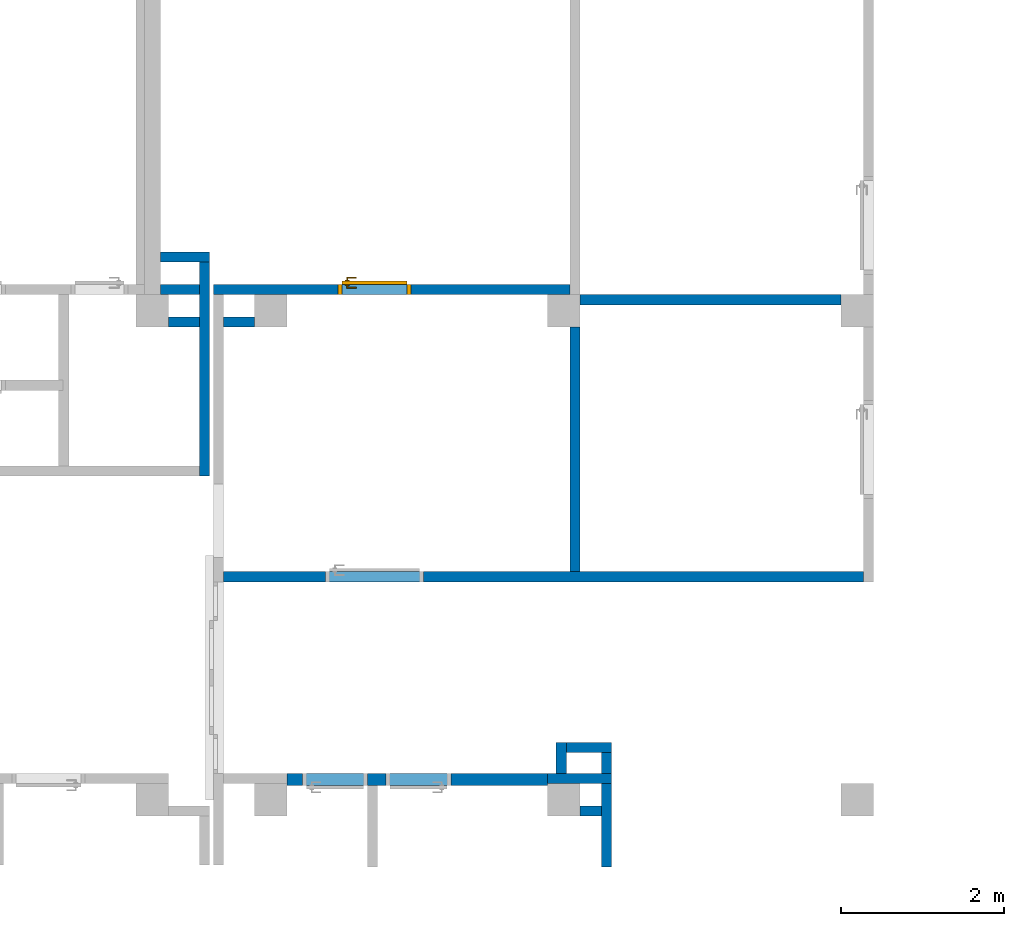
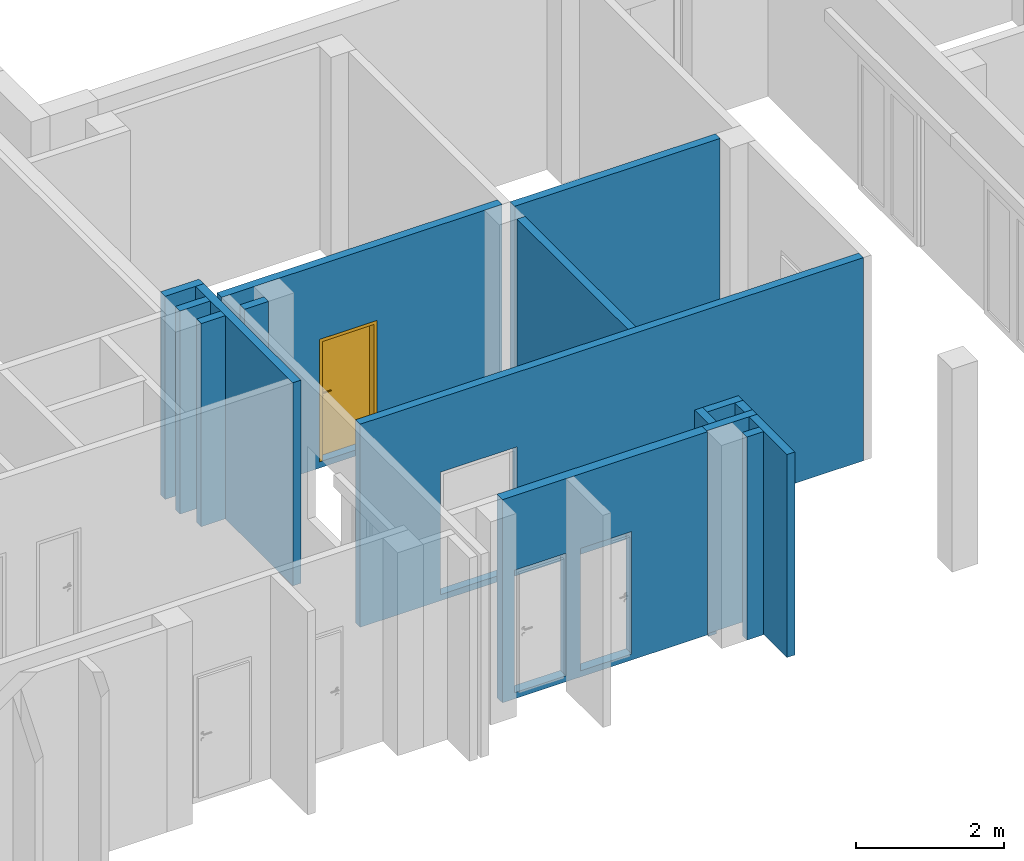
# One storey, part 18 of 37: 16 walls, 1 door, 4 openings.
"""IFC4 building model written with IfcOpenShell, lengths in metres."""

from ifc_helpers import new_model, entity, si_unit, converted_unit, derived_unit, frame, frame_2d, origin, origin_with_axes, place, context, subcontext, project, spatial, polyline, rectangle, outline, extrude, closed_shell, open_shell, surface_model, source, transform, mapped, material, layer, layer_set, layer_usage, type_object, element, fill, save


model = new_model("IFC4")

# Units and contexts
model_context = context("Model", 3, precision=1e-05, world=origin())
body_context = subcontext(model_context, "Body", "Model", "MODEL_VIEW")
ifc_project = project(units=[si_unit("LENGTHUNIT", "METRE"), si_unit("AREAUNIT", "SQUARE_METRE"), si_unit("VOLUMEUNIT", "CUBIC_METRE"), si_unit("MASSUNIT", "GRAM", prefix="KILO"), converted_unit("PLANEANGLEUNIT", "DEGREE", entity("IfcPlaneAngleMeasure", 0.0174532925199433), si_unit("PLANEANGLEUNIT", "RADIAN"), dimensions=[0, 0, 0, 0, 0, 0, 0]), derived_unit("THERMALTRANSMITTANCEUNIT", [(si_unit("POWERUNIT", "WATT"), 1), (si_unit("THERMODYNAMICTEMPERATUREUNIT", "KELVIN"), -1), (si_unit("LENGTHUNIT", "METRE"), -2)]), derived_unit("VOLUMETRICFLOWRATEUNIT", [(si_unit("LENGTHUNIT", "METRE"), 3), (converted_unit("TIMEUNIT", "hour", entity("IfcTimeMeasure", 3600.0), si_unit("TIMEUNIT", "SECOND"), dimensions=[0, 0, 1, 0, 0, 0, 0]), -1), (si_unit("LENGTHUNIT", "METRE"), -1)])], contexts=[model_context])

# Site, building, storey
site_placement = place(None, origin())
site = spatial("IfcSite", under=ifc_project, at=site_placement, Name="3. ASŘ", CompositionType="ELEMENT")
building_placement = place(site_placement, origin())
building = spatial("IfcBuilding", under=site, at=building_placement, Name="Pavilon B", CompositionType="ELEMENT")
storey_placement = place(building_placement, origin())
storey = spatial("IfcBuildingStorey", under=building, at=storey_placement, Name="Půdorys 1.NP", CompositionType="ELEMENT", Elevation=0.0)

# Walls
ifc_material_1 = material(Name="YTONG 125")
ifc_layer_1 = layer(ifc_material_1, 0.125)
ifc_layer_set_1 = layer_set([ifc_layer_1])
ifc_layer_usage_1 = layer_usage(ifc_layer_set_1, "AXIS2", "POSITIVE", 0.0)
wall_1_placement = place(storey_placement, frame((40.25, -21.4, -0.1), z_axis=(0.0, 0.0, 1.0), x_axis=(-1.0, 0.0, 0.0)))
element("IfcWall", 1, at=wall_1_placement, inside=storey, material=ifc_layer_usage_1, Name="YTONG 125", context=body_context, shape_type="SweptSolid", body=[
    extrude(rectangle(XDim=3.2, YDim=0.125, at=frame_2d((1.6, 0.0625), x_axis=(1.0, 0.0))), origin_with_axes(), (0.0, 0.0, 1.0), 3.35),
])
ifc_material_2 = material(Name="ZDIVO Z CDm")
ifc_layer_2 = layer(ifc_material_2, 0.125)
ifc_layer_set_2 = layer_set([ifc_layer_2])
ifc_layer_usage_2 = layer_usage(ifc_layer_set_2, "AXIS2", "POSITIVE", 0.0)
wall_2_placement = place(storey_placement, frame((32.5, -23.625, -0.1), z_axis=(0.0, 0.0, 1.0), x_axis=(0.0, 1.0, 0.0)))
element("IfcWall", 2, at=wall_2_placement, inside=storey, material=ifc_layer_usage_2, Name="ZDIVO Z CDm", context=body_context, shape_type="SweptSolid", body=[
    extrude(rectangle(XDim=2.625, YDim=0.125, at=frame_2d((1.3125, 0.0625), x_axis=(1.0, 0.0))), origin_with_axes(), (0.0, 0.0, 1.0), 3.35),
])

# Wall, opening, door
ifc_material_3 = material(Name="ZDIVO Z CDm")
ifc_layer_3 = layer(ifc_material_3, 0.125)
ifc_layer_set_3 = layer_set([ifc_layer_3])
ifc_layer_usage_3 = layer_usage(ifc_layer_set_3, "AXIS2", "POSITIVE", 0.0)
wall_3_placement = place(storey_placement, frame((32.55, -21.4, -0.1)))
wall_3 = element("IfcWall", 3, at=wall_3_placement, inside=storey, material=ifc_layer_usage_3, Name="ZDIVO Z CDm", context=body_context, shape_type="SweptSolid", body=[
    extrude(rectangle(XDim=4.375, YDim=0.125, at=frame_2d((2.1875, 0.0625), x_axis=(1.0, 0.0))), origin_with_axes(), (0.0, 0.0, 1.0), 3.35),
])
opening_1_placement = place(wall_3_placement, frame((2.425, 0.125, 0.1), z_axis=(0.0, -1.0, 0.0), x_axis=(0.0, 0.0, 1.0)))
opening_1 = element("IfcOpeningElement", 4, at=opening_1_placement, cuts=wall_3, Name="Dveřní otvor", ObjectType="Opening", context=body_context, shape_type="SweptSolid", body=[
    extrude(outline(polyline([(0.0, 0.9), (2.02, 0.9), (2.02, 0.0), (0.0, 0.0), (0.0, 0.9)])), origin_with_axes(), (0.0, 0.0, 1.0), 0.125),
])
door_type = type_object("IfcDoorType", Name="D101", OperationType="NOTDEFINED", ParameterTakesPrecedence=False, PredefinedType="DOOR")
shared_shape = source(origin_with_axes(), body_context, "Body", "SurfaceModel", [
    surface_model("IfcShellBasedSurfaceModel", [(0.0, 0.125, 2.02), (0.0, 0.125, -7.65404249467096e-18), (0.05, 0.125, -7.65404249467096e-18), (0.05, 0.125, 2.02), (0.0, 0.0, 7.65404249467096e-18), (0.0, 2.41584530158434e-16, 2.02), (0.05, 2.41584530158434e-16, 2.02), (0.05, 0.0, 7.65404249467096e-18)], [closed_shell([[[0, 1, 2, 3]], [[4, 5, 6, 7]], [[1, 0, 5, 4]], [[2, 1, 4, 7]], [[3, 2, 7, 6]], [[0, 3, 6, 5]]], orient=[[False], [False], [False], [False], [False], [False]])]),
    surface_model("IfcShellBasedSurfaceModel", [(0.85, 0.125, 2.02), (0.85, 0.125, -7.65404249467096e-18), (0.9, 0.125, -7.65404249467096e-18), (0.9, 0.125, 2.02), (0.85, 0.0, 7.65404249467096e-18), (0.85, 2.41584530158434e-16, 2.02), (0.9, 2.41584530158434e-16, 2.02), (0.9, 0.0, 7.65404249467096e-18)], [closed_shell([[[0, 1, 2, 3]], [[4, 5, 6, 7]], [[1, 0, 5, 4]], [[2, 1, 4, 7]], [[3, 2, 7, 6]], [[0, 3, 6, 5]]], orient=[[False], [False], [False], [False], [False], [False]])]),
    surface_model("IfcShellBasedSurfaceModel", [(0.05, 0.125, 2.02), (0.05, 0.125, 1.97), (0.85, 0.125, 1.97), (0.85, 0.125, 2.02), (0.05, 2.41584530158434e-16, 1.97), (0.05, 2.41584530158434e-16, 2.02), (0.85, 2.41584530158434e-16, 2.02), (0.85, 2.41584530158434e-16, 1.97)], [closed_shell([[[0, 1, 2, 3]], [[4, 5, 6, 7]], [[1, 0, 5, 4]], [[2, 1, 4, 7]], [[3, 2, 7, 6]], [[0, 3, 6, 5]]], orient=[[False], [False], [False], [False], [False], [False]])]),
    surface_model("IfcShellBasedSurfaceModel", [(0.05, 0.165, 1.97), (0.05, 0.165, -1.25526296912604e-17), (0.85, 0.165, -1.25526296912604e-17), (0.85, 0.165, 1.97), (0.05, 0.125, -7.65404249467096e-18), (0.05, 0.125, 1.97), (0.85, 0.125, 1.97), (0.85, 0.125, -7.65404249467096e-18)], [closed_shell([[[0, 1, 2, 3]], [[4, 5, 6, 7]], [[1, 0, 5, 4]], [[2, 1, 4, 7]], [[3, 2, 7, 6]], [[0, 3, 6, 5]]], orient=[[False], [False], [False], [False], [False], [False]])]),
    surface_model("IfcShellBasedSurfaceModel", [(0.808815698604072, 0.125, 0.93625), (0.8125, 0.125, 0.95), (0.808815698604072, 0.125, 0.96375), (0.79875, 0.125, 0.973815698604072), (0.785, 0.125, 0.9775), (0.77125, 0.125, 0.973815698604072), (0.761184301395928, 0.125, 0.96375), (0.7575, 0.125, 0.95), (0.761184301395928, 0.125, 0.93625), (0.77125, 0.125, 0.926184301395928), (0.785, 0.125, 0.9225), (0.79875, 0.125, 0.926184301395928), (0.8125, 0.1125, 0.95), (0.808815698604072, 0.1125, 0.93625), (0.79875, 0.1125, 0.926184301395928), (0.785, 0.1125, 0.9225), (0.77125, 0.1125, 0.926184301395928), (0.761184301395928, 0.1125, 0.93625), (0.7575, 0.1125, 0.95), (0.761184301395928, 0.1125, 0.96375), (0.77125, 0.1125, 0.973815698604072), (0.785, 0.1125, 0.9775), (0.79875, 0.1125, 0.973815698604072), (0.808815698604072, 0.1125, 0.96375)], [closed_shell([[[0, 1, 2, 3, 4, 5, 6, 7, 8, 9, 10, 11]], [[12, 13, 14, 15, 16, 17, 18, 19, 20, 21, 22, 23]], [[1, 0, 13, 12]], [[2, 1, 12, 23]], [[3, 2, 23, 22]], [[4, 3, 22, 21]], [[5, 4, 21, 20]], [[6, 5, 20, 19]], [[7, 6, 19, 18]], [[8, 7, 18, 17]], [[9, 8, 17, 16]], [[10, 9, 16, 15]], [[11, 10, 15, 14]], [[0, 11, 14, 13]]], orient=[[False], [False], [False], [False], [False], [False], [False], [False], [False], [False], [False], [False], [False], [False]])]),
    surface_model("IfcShellBasedSurfaceModel", [(0.808815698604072, 0.125, 1.03625), (0.8125, 0.125, 1.05), (0.808815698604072, 0.125, 1.06375), (0.79875, 0.125, 1.07381569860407), (0.785, 0.125, 1.0775), (0.77125, 0.125, 1.07381569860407), (0.761184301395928, 0.125, 1.06375), (0.7575, 0.125, 1.05), (0.761184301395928, 0.125, 1.03625), (0.77125, 0.125, 1.02618430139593), (0.785, 0.125, 1.0225), (0.79875, 0.125, 1.02618430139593), (0.8125, 0.1125, 1.05), (0.808815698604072, 0.1125, 1.03625), (0.79875, 0.1125, 1.02618430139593), (0.785, 0.1125, 1.0225), (0.77125, 0.1125, 1.02618430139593), (0.761184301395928, 0.1125, 1.03625), (0.7575, 0.1125, 1.05), (0.761184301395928, 0.1125, 1.06375), (0.77125, 0.1125, 1.07381569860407), (0.785, 0.1125, 1.0775), (0.79875, 0.1125, 1.07381569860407), (0.808815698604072, 0.1125, 1.06375)], [closed_shell([[[0, 1, 2, 3, 4, 5, 6, 7, 8, 9, 10, 11]], [[12, 13, 14, 15, 16, 17, 18, 19, 20, 21, 22, 23]], [[1, 0, 13, 12]], [[2, 1, 12, 23]], [[3, 2, 23, 22]], [[4, 3, 22, 21]], [[5, 4, 21, 20]], [[6, 5, 20, 19]], [[7, 6, 19, 18]], [[8, 7, 18, 17]], [[9, 8, 17, 16]], [[10, 9, 16, 15]], [[11, 10, 15, 14]], [[0, 11, 14, 13]]], orient=[[False], [False], [False], [False], [False], [False], [False], [False], [False], [False], [False], [False], [False], [False]])]),
    surface_model("IfcShellBasedSurfaceModel", [(0.785, 0.125, 1.06), (0.78, 0.125, 1.05866025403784), (0.776339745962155, 0.125, 1.055), (0.775, 0.125, 1.05), (0.776339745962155, 0.125, 1.045), (0.78, 0.125, 1.04133974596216), (0.785, 0.125, 1.04), (0.79, 0.125, 1.04133974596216), (0.793660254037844, 0.125, 1.045), (0.795, 0.125, 1.05), (0.793660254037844, 0.125, 1.055), (0.79, 0.125, 1.05866025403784), (0.79, 0.0800000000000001, 1.05866025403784), (0.785, 0.0850000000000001, 1.06), (0.793660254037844, 0.0763397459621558, 1.055), (0.795, 0.0750000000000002, 1.05), (0.793660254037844, 0.0763397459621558, 1.045), (0.79, 0.0800000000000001, 1.04133974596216), (0.785, 0.0850000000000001, 1.04), (0.78, 0.0900000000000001, 1.04133974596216), (0.776339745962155, 0.0936602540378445, 1.045), (0.775, 0.0950000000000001, 1.05), (0.776339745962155, 0.0936602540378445, 1.055), (0.78, 0.0900000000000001, 1.05866025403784), (0.67, 0.0800000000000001, 1.05866025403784), (0.67, 0.0850000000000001, 1.06), (0.67, 0.0763397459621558, 1.055), (0.67, 0.0750000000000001, 1.05), (0.67, 0.0763397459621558, 1.045), (0.67, 0.0800000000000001, 1.04133974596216), (0.67, 0.0850000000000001, 1.04), (0.67, 0.0900000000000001, 1.04133974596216), (0.67, 0.0936602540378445, 1.045), (0.67, 0.0950000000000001, 1.05), (0.67, 0.0936602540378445, 1.055), (0.67, 0.0900000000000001, 1.05866025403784)], [open_shell([[[0, 1, 2, 3, 4, 5, 6, 7, 8, 9, 10, 11]], [[0, 11, 12, 13]], [[11, 10, 14, 12]], [[10, 9, 15, 14]], [[9, 8, 16, 15]], [[8, 7, 17, 16]], [[7, 6, 18, 17]], [[6, 5, 19, 18]], [[5, 4, 20, 19]], [[4, 3, 21, 20]], [[3, 2, 22, 21]], [[2, 1, 23, 22]], [[1, 0, 13, 23]], [[13, 12, 24, 25]], [[12, 14, 26, 24]], [[14, 15, 27, 26]], [[15, 16, 28, 27]], [[16, 17, 29, 28]], [[17, 18, 30, 29]], [[18, 19, 31, 30]], [[19, 20, 32, 31]], [[20, 21, 33, 32]], [[21, 22, 34, 33]], [[22, 23, 35, 34]], [[23, 13, 25, 35]]], orient=[[False], [False], [False], [False], [False], [False], [False], [False], [False], [False], [False], [False], [False], [False], [False], [False], [False], [False], [False], [False], [False], [False], [False], [False], [False]])]),
    surface_model("IfcShellBasedSurfaceModel", [(0.808815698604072, 0.165, 0.93625), (0.79875, 0.165, 0.926184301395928), (0.785, 0.165, 0.9225), (0.77125, 0.165, 0.926184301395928), (0.761184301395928, 0.165, 0.93625), (0.7575, 0.165, 0.95), (0.761184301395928, 0.165, 0.96375), (0.77125, 0.165, 0.973815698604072), (0.785, 0.165, 0.9775), (0.79875, 0.165, 0.973815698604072), (0.808815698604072, 0.165, 0.96375), (0.8125, 0.165, 0.95), (0.8125, 0.1775, 0.95), (0.808815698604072, 0.1775, 0.96375), (0.79875, 0.1775, 0.973815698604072), (0.785, 0.1775, 0.9775), (0.77125, 0.1775, 0.973815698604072), (0.761184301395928, 0.1775, 0.96375), (0.7575, 0.1775, 0.95), (0.761184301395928, 0.1775, 0.93625), (0.77125, 0.1775, 0.926184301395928), (0.785, 0.1775, 0.9225), (0.79875, 0.1775, 0.926184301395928), (0.808815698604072, 0.1775, 0.93625)], [closed_shell([[[0, 1, 2, 3, 4, 5, 6, 7, 8, 9, 10, 11]], [[12, 13, 14, 15, 16, 17, 18, 19, 20, 21, 22, 23]], [[11, 12, 23, 0]], [[10, 13, 12, 11]], [[9, 14, 13, 10]], [[8, 15, 14, 9]], [[7, 16, 15, 8]], [[6, 17, 16, 7]], [[5, 18, 17, 6]], [[4, 19, 18, 5]], [[3, 20, 19, 4]], [[2, 21, 20, 3]], [[1, 22, 21, 2]], [[0, 23, 22, 1]]], orient=[[False], [False], [False], [False], [False], [False], [False], [False], [False], [False], [False], [False], [False], [False]])]),
    surface_model("IfcShellBasedSurfaceModel", [(0.808815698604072, 0.165, 1.03625), (0.79875, 0.165, 1.02618430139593), (0.785, 0.165, 1.0225), (0.77125, 0.165, 1.02618430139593), (0.761184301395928, 0.165, 1.03625), (0.7575, 0.165, 1.05), (0.761184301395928, 0.165, 1.06375), (0.77125, 0.165, 1.07381569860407), (0.785, 0.165, 1.0775), (0.79875, 0.165, 1.07381569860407), (0.808815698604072, 0.165, 1.06375), (0.8125, 0.165, 1.05), (0.8125, 0.1775, 1.05), (0.808815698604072, 0.1775, 1.06375), (0.79875, 0.1775, 1.07381569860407), (0.785, 0.1775, 1.0775), (0.77125, 0.1775, 1.07381569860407), (0.761184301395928, 0.1775, 1.06375), (0.7575, 0.1775, 1.05), (0.761184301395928, 0.1775, 1.03625), (0.77125, 0.1775, 1.02618430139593), (0.785, 0.1775, 1.0225), (0.79875, 0.1775, 1.02618430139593), (0.808815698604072, 0.1775, 1.03625)], [closed_shell([[[0, 1, 2, 3, 4, 5, 6, 7, 8, 9, 10, 11]], [[12, 13, 14, 15, 16, 17, 18, 19, 20, 21, 22, 23]], [[11, 12, 23, 0]], [[10, 13, 12, 11]], [[9, 14, 13, 10]], [[8, 15, 14, 9]], [[7, 16, 15, 8]], [[6, 17, 16, 7]], [[5, 18, 17, 6]], [[4, 19, 18, 5]], [[3, 20, 19, 4]], [[2, 21, 20, 3]], [[1, 22, 21, 2]], [[0, 23, 22, 1]]], orient=[[False], [False], [False], [False], [False], [False], [False], [False], [False], [False], [False], [False], [False], [False]])]),
    surface_model("IfcShellBasedSurfaceModel", [(0.785, 0.165, 1.06), (0.79, 0.165, 1.05866025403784), (0.793660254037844, 0.165, 1.055), (0.795, 0.165, 1.05), (0.793660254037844, 0.165, 1.045), (0.79, 0.165, 1.04133974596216), (0.785, 0.165, 1.04), (0.78, 0.165, 1.04133974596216), (0.776339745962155, 0.165, 1.045), (0.775, 0.165, 1.05), (0.776339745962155, 0.165, 1.055), (0.78, 0.165, 1.05866025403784), (0.785, 0.205, 1.06), (0.79, 0.21, 1.05866025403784), (0.793660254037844, 0.213660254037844, 1.055), (0.795, 0.215, 1.05), (0.793660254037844, 0.213660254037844, 1.045), (0.79, 0.21, 1.04133974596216), (0.785, 0.205, 1.04), (0.78, 0.2, 1.04133974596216), (0.776339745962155, 0.196339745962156, 1.045), (0.775, 0.195, 1.05), (0.776339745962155, 0.196339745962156, 1.055), (0.78, 0.2, 1.05866025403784), (0.67, 0.205, 1.06), (0.67, 0.21, 1.05866025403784), (0.67, 0.213660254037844, 1.055), (0.67, 0.215, 1.05), (0.67, 0.213660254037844, 1.045), (0.67, 0.21, 1.04133974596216), (0.67, 0.205, 1.04), (0.67, 0.2, 1.04133974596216), (0.67, 0.196339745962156, 1.045), (0.67, 0.195, 1.05), (0.67, 0.196339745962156, 1.055), (0.67, 0.2, 1.05866025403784)], [open_shell([[[0, 1, 2, 3, 4, 5, 6, 7, 8, 9, 10, 11]], [[0, 12, 13, 1]], [[1, 13, 14, 2]], [[2, 14, 15, 3]], [[3, 15, 16, 4]], [[4, 16, 17, 5]], [[5, 17, 18, 6]], [[6, 18, 19, 7]], [[7, 19, 20, 8]], [[8, 20, 21, 9]], [[9, 21, 22, 10]], [[10, 22, 23, 11]], [[11, 23, 12, 0]], [[12, 24, 25, 13]], [[13, 25, 26, 14]], [[14, 26, 27, 15]], [[15, 27, 28, 16]], [[16, 28, 29, 17]], [[17, 29, 30, 18]], [[18, 30, 31, 19]], [[19, 31, 32, 20]], [[20, 32, 33, 21]], [[21, 33, 34, 22]], [[22, 34, 35, 23]], [[23, 35, 24, 12]]], orient=[[False], [False], [False], [False], [False], [False], [False], [False], [False], [False], [False], [False], [False], [False], [False], [False], [False], [False], [False], [False], [False], [False], [False], [False], [False]])]),
])
door_placement = place(opening_1_placement, frame((0.0, 0.0, 0.125), z_axis=(1.0, 0.0, 0.0), x_axis=(0.0, 1.0, -2.44929359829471e-16)))
door = element("IfcDoor", 5, at=door_placement, inside=storey, type_object=door_type, Name="D101", OverallHeight=2.02, OverallWidth=0.9, context=body_context, shape_type="MappedRepresentation", body=[
    mapped(shared_shape, transform((0.0, 0.0, 0.0), x_axis=(1.0, 0.0, 0.0), y_axis=(0.0, -1.0, 0.0), z_axis=(0.0, 0.0, 1.0), scale=1.0)),
])
fill(opening_1, door)

# Walls
ifc_material_4 = material(Name="ZDIVO Z CDm")
ifc_layer_4 = layer(ifc_material_4, 0.125)
ifc_layer_set_4 = layer_set([ifc_layer_4])
ifc_layer_usage_4 = layer_usage(ifc_layer_set_4, "AXIS2", "POSITIVE", 0.0)
wall_4_placement = place(storey_placement, frame((32.675, -21.8, -0.1)))
element("IfcWall", 6, at=wall_4_placement, inside=storey, material=ifc_layer_usage_4, Name="ZDIVO Z CDm", context=body_context, shape_type="SweptSolid", body=[
    extrude(rectangle(XDim=0.375, YDim=0.125, at=frame_2d((0.1875, 0.0625), x_axis=(1.0, 0.0))), origin_with_axes(), (0.0, 0.0, 1.0), 3.35),
])
ifc_material_5 = material(Name="ZDIVO Z CDm")
ifc_layer_5 = layer(ifc_material_5, 0.125)
ifc_layer_set_5 = layer_set([ifc_layer_5])
ifc_layer_usage_5 = layer_usage(ifc_layer_set_5, "AXIS2", "POSITIVE", 0.0)
wall_5_placement = place(storey_placement, frame((31.9, -21.4, -0.1)))
element("IfcWall", 7, at=wall_5_placement, inside=storey, material=ifc_layer_usage_5, Name="ZDIVO Z CDm", context=body_context, shape_type="SweptSolid", body=[
    extrude(rectangle(XDim=0.475, YDim=0.125, at=frame_2d((0.2375, 0.0625), x_axis=(1.0, 0.0))), origin_with_axes(), (0.0, 0.0, 1.0), 3.35),
])
ifc_material_6 = material(Name="ZDIVO Z CDm")
ifc_layer_6 = layer(ifc_material_6, 0.125)
ifc_layer_set_6 = layer_set([ifc_layer_6])
ifc_layer_usage_6 = layer_usage(ifc_layer_set_6, "AXIS2", "POSITIVE", 0.0)
wall_6_placement = place(storey_placement, frame((32.0, -21.8, -0.1)))
element("IfcWall", 8, at=wall_6_placement, inside=storey, material=ifc_layer_usage_6, Name="ZDIVO Z CDm", context=body_context, shape_type="SweptSolid", body=[
    extrude(rectangle(XDim=0.375, YDim=0.125, at=frame_2d((0.1875, 0.0625), x_axis=(1.0, 0.0))), origin_with_axes(), (0.0, 0.0, 1.0), 3.35),
])
ifc_material_7 = material(Name="ZDIVO Z CDm")
ifc_layer_7 = layer(ifc_material_7, 0.125)
ifc_layer_set_7 = layer_set([ifc_layer_7])
ifc_layer_usage_7 = layer_usage(ifc_layer_set_7, "AXIS2", "POSITIVE", 0.0)
wall_7_placement = place(storey_placement, frame((31.9, -21.0, -0.1)))
element("IfcWall", 9, at=wall_7_placement, inside=storey, material=ifc_layer_usage_7, Name="ZDIVO Z CDm", context=body_context, shape_type="SweptSolid", body=[
    extrude(rectangle(XDim=0.6, YDim=0.125, at=frame_2d((0.3, 0.0625), x_axis=(1.0, 0.0))), origin_with_axes(), (0.0, 0.0, 1.0), 3.35),
])

# Wall, openings
ifc_material_8 = material(Name="YTONG 150")
ifc_layer_8 = layer(ifc_material_8, 0.15)
ifc_layer_set_8 = layer_set([ifc_layer_8])
ifc_layer_usage_8 = layer_usage(ifc_layer_set_8, "AXIS2", "POSITIVE", 0.0)
wall_8_placement = place(storey_placement, frame((36.65, -27.275, -0.1), z_axis=(0.0, 0.0, 1.0), x_axis=(-1.0, 0.0, 0.0)))
wall_8 = element("IfcWall", 10, at=wall_8_placement, inside=storey, material=ifc_layer_usage_8, Name="YTONG 150", context=body_context, shape_type="SweptSolid", body=[
    extrude(rectangle(XDim=3.2, YDim=0.15, at=frame_2d((1.6, 0.075), x_axis=(1.0, 0.0))), origin_with_axes(), (0.0, 0.0, 1.0), 3.35),
])
opening_2_placement = place(wall_8_placement, frame((2.21, 0.0, 0.1), z_axis=(0.0, 1.0, 0.0), x_axis=(0.0, 0.0, 1.0)))
element("IfcOpeningElement", 11, at=opening_2_placement, cuts=wall_8, Name="Dveřní otvor", ObjectType="Opening", context=body_context, shape_type="SweptSolid", body=[
    extrude(outline(polyline([(0.0, 0.8), (2.02, 0.8), (2.02, 0.0), (0.0, 0.0), (0.0, 0.8)])), origin_with_axes(), (0.0, 0.0, 1.0), 0.15),
])
opening_3_placement = place(wall_8_placement, frame((1.185, 0.0, 0.1), z_axis=(0.0, 1.0, 0.0), x_axis=(0.0, 0.0, 1.0)))
element("IfcOpeningElement", 12, at=opening_3_placement, cuts=wall_8, Name="Dveřní otvor", ObjectType="Opening", context=body_context, shape_type="SweptSolid", body=[
    extrude(outline(polyline([(0.0, 0.8), (2.02, 0.8), (2.02, 0.0), (0.0, 0.0), (0.0, 0.8)])), origin_with_axes(), (0.0, 0.0, 1.0), 0.15),
])

# Walls
ifc_material_9 = material(Name="ZDIVO Z CDm")
ifc_layer_9 = layer(ifc_material_9, 0.125)
ifc_layer_set_9 = layer_set([ifc_layer_9])
ifc_layer_usage_9 = layer_usage(ifc_layer_set_9, "AXIS2", "POSITIVE", 0.0)
wall_9_placement = place(storey_placement, frame((36.65, -27.4, -0.1)))
element("IfcWall", 13, at=wall_9_placement, inside=storey, material=ifc_layer_usage_9, Name="ZDIVO Z CDm", context=body_context, shape_type="SweptSolid", body=[
    extrude(rectangle(XDim=0.785, YDim=0.125, at=frame_2d((0.3925, 0.0625), x_axis=(1.0, 0.0))), origin_with_axes(), (0.0, 0.0, 1.0), 3.35),
])
ifc_material_10 = material(Name="ZDIVO Z CDm")
ifc_layer_10 = layer(ifc_material_10, 0.125)
ifc_layer_set_10 = layer_set([ifc_layer_10])
ifc_layer_usage_10 = layer_usage(ifc_layer_set_10, "AXIS2", "POSITIVE", 0.0)
wall_10_placement = place(storey_placement, frame((37.31, -27.4, -0.1), z_axis=(0.0, 0.0, 1.0), x_axis=(0.0, -1.0, 0.0)))
element("IfcWall", 14, at=wall_10_placement, inside=storey, material=ifc_layer_usage_10, Name="ZDIVO Z CDm", context=body_context, shape_type="SweptSolid", body=[
    extrude(rectangle(XDim=1.025, YDim=0.125, at=frame_2d((0.5125, 0.0625), x_axis=(1.0, 0.0))), origin_with_axes(), (0.0, 0.0, 1.0), 3.35),
])
ifc_material_11 = material(Name="ZDIVO Z CDm")
ifc_layer_11 = layer(ifc_material_11, 0.125)
ifc_layer_set_11 = layer_set([ifc_layer_11])
ifc_layer_usage_11 = layer_usage(ifc_layer_set_11, "AXIS2", "POSITIVE", 0.0)
wall_11_placement = place(storey_placement, frame((37.05, -27.8, -0.1)))
element("IfcWall", 15, at=wall_11_placement, inside=storey, material=ifc_layer_usage_11, Name="ZDIVO Z CDm", context=body_context, shape_type="SweptSolid", body=[
    extrude(rectangle(XDim=0.26, YDim=0.125, at=frame_2d((0.13, 0.0625), x_axis=(1.0, 0.0))), origin_with_axes(), (0.0, 0.0, 1.0), 3.35),
])
ifc_material_12 = material(Name="YTONG 125")
ifc_layer_12 = layer(ifc_material_12, 0.125)
ifc_layer_set_12 = layer_set([ifc_layer_12])
ifc_layer_usage_12 = layer_usage(ifc_layer_set_12, "AXIS2", "POSITIVE", 0.0)
wall_12_placement = place(storey_placement, frame((36.755, -26.895, -0.25), z_axis=(0.0, 0.0, 1.0), x_axis=(0.0, -1.0, 0.0)))
element("IfcWall", 16, at=wall_12_placement, inside=storey, material=ifc_layer_usage_12, Name="YTONG 125", context=body_context, shape_type="SweptSolid", body=[
    extrude(rectangle(XDim=0.38, YDim=0.125, at=frame_2d((0.19, 0.0625), x_axis=(1.0, 0.0))), origin_with_axes(), (0.0, 0.0, 1.0), 3.5),
])
ifc_material_13 = material(Name="YTONG 125")
ifc_layer_13 = layer(ifc_material_13, 0.125)
ifc_layer_set_13 = layer_set([ifc_layer_13])
ifc_layer_usage_13 = layer_usage(ifc_layer_set_13, "AXIS2", "POSITIVE", 0.0)
wall_13_placement = place(storey_placement, frame((37.435, -26.895, -0.25), z_axis=(0.0, 0.0, 1.0), x_axis=(-1.0, 0.0, 0.0)))
element("IfcWall", 17, at=wall_13_placement, inside=storey, material=ifc_layer_usage_13, Name="YTONG 125", context=body_context, shape_type="SweptSolid", body=[
    extrude(rectangle(XDim=0.555, YDim=0.125, at=frame_2d((0.2775, 0.0625), x_axis=(1.0, 0.0))), origin_with_axes(), (0.0, 0.0, 1.0), 3.5),
])
ifc_material_14 = material(Name="YTONG 125")
ifc_layer_14 = layer(ifc_material_14, 0.125)
ifc_layer_set_14 = layer_set([ifc_layer_14])
ifc_layer_usage_14 = layer_usage(ifc_layer_set_14, "AXIS2", "POSITIVE", 0.0)
wall_14_placement = place(storey_placement, frame((37.435, -27.275, -0.25), z_axis=(0.0, 0.0, 1.0), x_axis=(0.0, 1.0, 0.0)))
element("IfcWall", 18, at=wall_14_placement, inside=storey, material=ifc_layer_usage_14, Name="YTONG 125", context=body_context, shape_type="SweptSolid", body=[
    extrude(rectangle(XDim=0.255, YDim=0.125, at=frame_2d((0.1275, 0.0625), x_axis=(1.0, 0.0))), origin_with_axes(), (0.0, 0.0, 1.0), 3.5),
])
ifc_material_15 = material(Name="ZDIVO Z CDm")
ifc_layer_15 = layer(ifc_material_15, 0.125)
ifc_layer_set_15 = layer_set([ifc_layer_15])
ifc_layer_usage_15 = layer_usage(ifc_layer_set_15, "AXIS2", "POSITIVE", 0.0)
wall_15_placement = place(storey_placement, frame((37.05, -24.8, -0.1), z_axis=(0.0, 0.0, 1.0), x_axis=(0.0, 1.0, 0.0)))
element("IfcWall", 19, at=wall_15_placement, inside=storey, material=ifc_layer_usage_15, Name="ZDIVO Z CDm", context=body_context, shape_type="SweptSolid", body=[
    extrude(rectangle(XDim=3.0, YDim=0.125, at=frame_2d((1.5, 0.0625), x_axis=(1.0, 0.0))), origin_with_axes(), (0.0, 0.0, 1.0), 3.35),
])

# Wall, opening
ifc_material_16 = material(Name="ZDIVO Z CDm")
ifc_layer_16 = layer(ifc_material_16, 0.125)
ifc_layer_set_16 = layer_set([ifc_layer_16])
ifc_layer_usage_16 = layer_usage(ifc_layer_set_16, "AXIS2", "POSITIVE", 0.0)
wall_16_placement = place(storey_placement, frame((40.525, -24.8, -0.1), z_axis=(0.0, 0.0, 1.0), x_axis=(-1.0, 0.0, 0.0)))
wall_16 = element("IfcWall", 20, at=wall_16_placement, inside=storey, material=ifc_layer_usage_16, Name="ZDIVO Z CDm", context=body_context, shape_type="SweptSolid", body=[
    extrude(rectangle(XDim=7.85, YDim=0.125, at=frame_2d((3.925, 0.0625), x_axis=(1.0, 0.0))), origin_with_axes(), (0.0, 0.0, 1.0), 3.35),
])
opening_4_placement = place(wall_16_placement, frame((5.4, 0.0, 0.1), z_axis=(0.0, 1.0, 0.0), x_axis=(0.0, 0.0, 1.0)))
element("IfcOpeningElement", 21, at=opening_4_placement, cuts=wall_16, Name="Dveřní otvor", ObjectType="Opening", context=body_context, shape_type="SweptSolid", body=[
    extrude(outline(polyline([(0.0, 1.2), (2.02, 1.2), (2.02, 0.0), (0.0, 0.0), (0.0, 1.2)])), origin_with_axes(), (0.0, 0.0, 1.0), 0.125),
])

save(model, "model.ifc")
